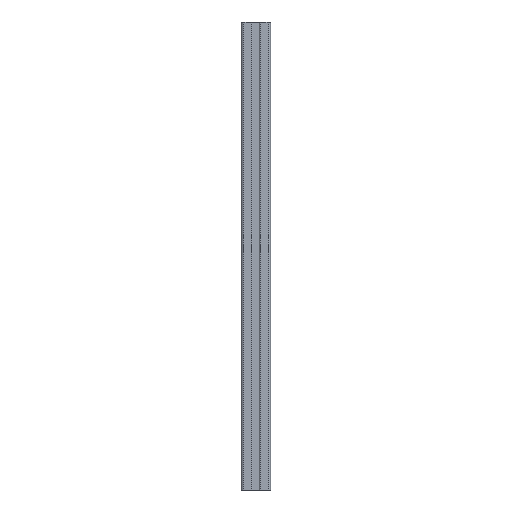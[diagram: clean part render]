
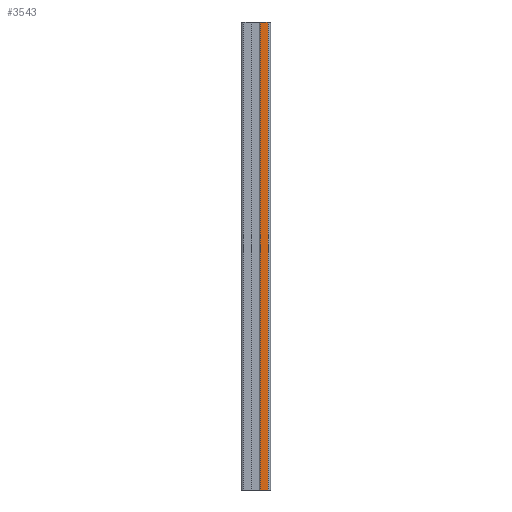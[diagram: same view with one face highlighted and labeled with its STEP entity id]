
A CAD part, left-side view. The second image highlights one B-rep face of the part: STEP entity #3543.
In plain terms, the highlighted planar face has unit normal (-1, 0, 0).
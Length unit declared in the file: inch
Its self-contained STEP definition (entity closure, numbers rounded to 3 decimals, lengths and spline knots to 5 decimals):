
#20=PLANE('',#3744);
#115=LINE('',#5230,#483);
#116=LINE('',#5232,#484);
#117=LINE('',#5234,#485);
#118=LINE('',#5236,#486);
#483=VECTOR('',#4120,39.37008);
#484=VECTOR('',#4123,39.37008);
#485=VECTOR('',#4124,39.37008);
#486=VECTOR('',#4125,39.37008);
#854=ORIENTED_EDGE('',*,*,#1958,.F.);
#855=ORIENTED_EDGE('',*,*,#1957,.F.);
#856=ORIENTED_EDGE('',*,*,#1959,.T.);
#857=ORIENTED_EDGE('',*,*,#1960,.T.);
#1957=EDGE_CURVE('',#2509,#2507,#115,.T.);
#1958=EDGE_CURVE('',#2507,#2510,#116,.T.);
#1959=EDGE_CURVE('',#2509,#2511,#117,.T.);
#1960=EDGE_CURVE('',#2511,#2510,#118,.T.);
#2507=VERTEX_POINT('',#5225);
#2509=VERTEX_POINT('',#5229);
#2510=VERTEX_POINT('',#5233);
#2511=VERTEX_POINT('',#5235);
#3059=EDGE_LOOP('',(#854,#855,#856,#857));
#3255=FACE_BOUND('',#3059,.T.);
#3543=ADVANCED_FACE('',(#3255),#20,.T.);
#3744=AXIS2_PLACEMENT_3D('',#5231,#4121,#4122);
#4120=DIRECTION('',(0.,0.,1.));
#4121=DIRECTION('',(-1.,0.,0.));
#4122=DIRECTION('',(0.,0.,1.));
#4123=DIRECTION('',(0.,-1.,0.));
#4124=DIRECTION('',(0.,-1.,0.));
#4125=DIRECTION('',(0.,0.,1.));
#5225=CARTESIAN_POINT('',(-0.75,-0.222,0.));
#5229=CARTESIAN_POINT('',(-0.75,-0.222,-24.));
#5230=CARTESIAN_POINT('',(-0.75,-0.222,-24.));
#5231=CARTESIAN_POINT('',(-0.75,-0.222,-24.));
#5232=CARTESIAN_POINT('',(-0.75,-0.222,0.));
#5233=CARTESIAN_POINT('',(-0.75,-0.625,0.));
#5234=CARTESIAN_POINT('',(-0.75,-0.222,-24.));
#5235=CARTESIAN_POINT('',(-0.75,-0.625,-24.));
#5236=CARTESIAN_POINT('',(-0.75,-0.625,-24.));
